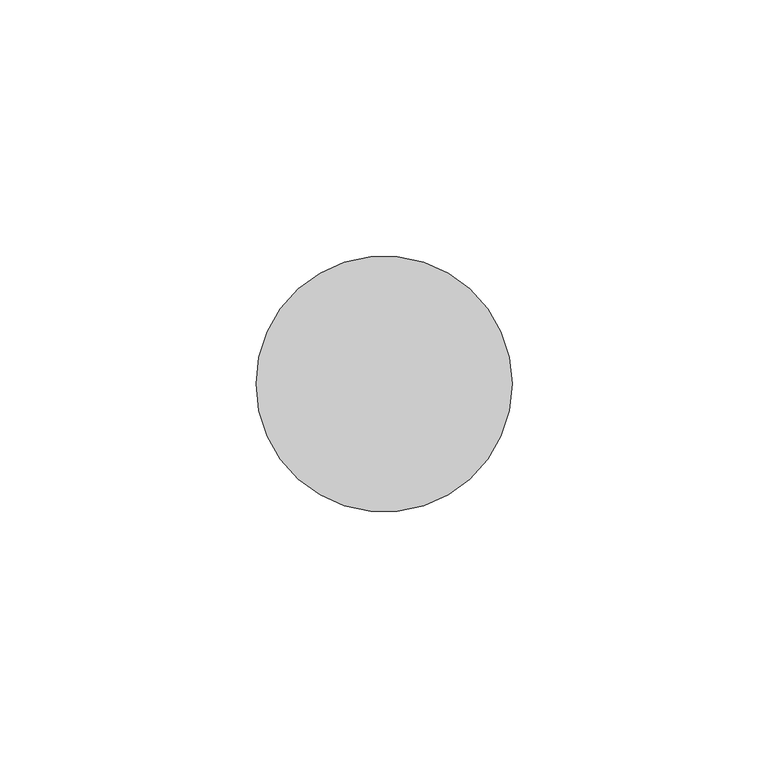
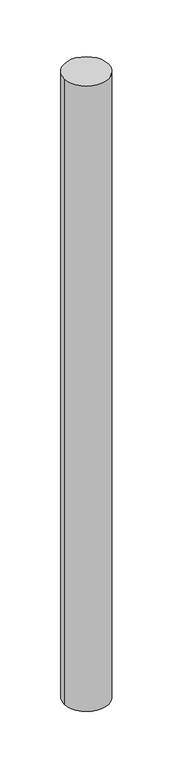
"""IFC4 building model written with IfcOpenShell, lengths in millimetres: member geometry, 圓形豎框 : 25mm 半徑."""

from ifc_helpers import new_model, si_unit, point, frame, origin, origin_2d, place, context, project, spatial, circle_curve, trimmed, segment, composite_curve, outline, extrude, source, transform, mapped, element, save


def member_8bce7277(model_context):
    return source(origin(), model_context, "Body", "SweptSolid", [
        extrude(outline(composite_curve([segment(trimmed(circle_curve(origin_2d(), 25.0), [point((25.0, 0.0))], [point((-25.0, 0.0))], False, "CARTESIAN"), True, "CONTINUOUS"), segment(trimmed(circle_curve(origin_2d(), 25.0), [point((-25.0, 0.0))], [point((25.0, 0.0))], False, "CARTESIAN"), True, "CONTINUOUS")], self_intersect=False)), frame((0.0, 0.0, -744.0), z_axis=(0.0, 0.0, 1.0), x_axis=(1.0, 0.0, 0.0)), (0.0, 0.0, 1.0), 744.0),
    ])


if __name__ == "__main__":
    model = new_model("IFC4")
    model_context = context("Model", 3, world=origin())
    ifc_project = project(units=[si_unit("LENGTHUNIT", "METRE", prefix="MILLI")], contexts=[model_context])
    site = spatial("IfcSite", under=ifc_project)
    building = spatial("IfcBuilding", under=site)
    placement = place(None, origin())
    member_shape = member_8bce7277(model_context)
    element("IfcMember", 1, ObjectType="圓形豎框 : 25mm 半徑", at=placement, inside=building, context=model_context, shape_type="MappedRepresentation", body=[
        mapped(member_shape, transform((0.0, 0.0, 0.0), x_axis=(1.0, 0.0, 0.0), y_axis=(0.0, 1.0, 0.0), z_axis=(0.0, 0.0, 1.0))),
    ])
    save(model, "model.ifc")
